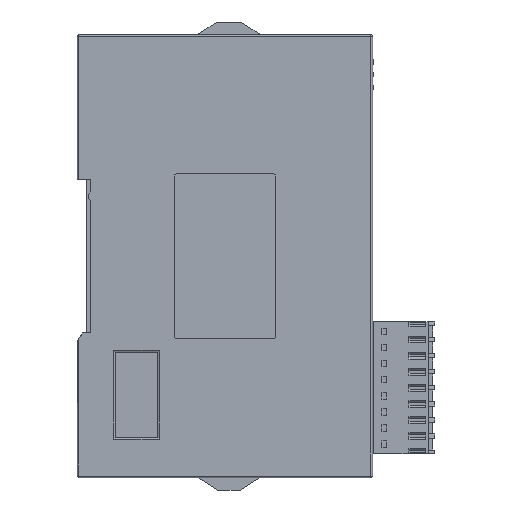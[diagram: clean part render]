
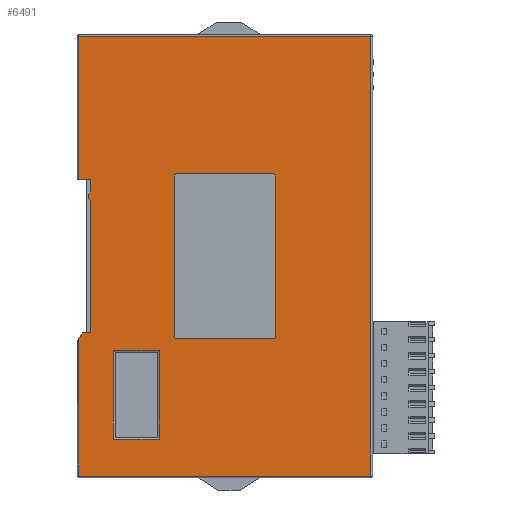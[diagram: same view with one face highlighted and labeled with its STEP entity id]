
A CAD part, left-side view. The second image highlights one B-rep face of the part: STEP entity #6491.
In plain terms, the highlighted planar face has unit normal (-1, 0, 0).
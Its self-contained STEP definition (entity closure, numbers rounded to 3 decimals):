
#6491=ADVANCED_FACE('',(#18840,#18842,#18844),#18846,.T.);
#18840=FACE_BOUND('',#18841,.T.);
#18841=EDGE_LOOP('',(#27708,#27709,#27710,#27711,#27712,#27713,#27714,#27715,#27716,
#27717,#27718));
#18842=FACE_BOUND('',#18843,.T.);
#18843=EDGE_LOOP('',(#27719,#27720,#27721,#27722,#27723,#27724,#27725,#27726));
#18844=FACE_BOUND('',#18845,.T.);
#18845=EDGE_LOOP('',(#27727,#27728,#27729,#27730));
#18846=PLANE('',#18847);
#18847=AXIS2_PLACEMENT_3D('',#18848,#18849,#18850);
#18848=CARTESIAN_POINT('',(-345.903,-44.348,173.566));
#18849=DIRECTION('',(-1.,0.,0.));
#18850=DIRECTION('',(0.,0.,1.));
#27708=ORIENTED_EDGE('',*,*,#33904,.F.);
#27709=ORIENTED_EDGE('',*,*,#33905,.F.);
#27710=ORIENTED_EDGE('',*,*,#33906,.T.);
#27711=ORIENTED_EDGE('',*,*,#33907,.T.);
#27712=ORIENTED_EDGE('',*,*,#33908,.T.);
#27713=ORIENTED_EDGE('',*,*,#33909,.T.);
#27714=ORIENTED_EDGE('',*,*,#33910,.T.);
#27715=ORIENTED_EDGE('',*,*,#33911,.F.);
#27716=ORIENTED_EDGE('',*,*,#33912,.F.);
#27717=ORIENTED_EDGE('',*,*,#33913,.F.);
#27718=ORIENTED_EDGE('',*,*,#33233,.F.);
#27719=ORIENTED_EDGE('',*,*,#33914,.F.);
#27720=ORIENTED_EDGE('',*,*,#33915,.F.);
#27721=ORIENTED_EDGE('',*,*,#33916,.F.);
#27722=ORIENTED_EDGE('',*,*,#33917,.F.);
#27723=ORIENTED_EDGE('',*,*,#33918,.F.);
#27724=ORIENTED_EDGE('',*,*,#33919,.F.);
#27725=ORIENTED_EDGE('',*,*,#33920,.F.);
#27726=ORIENTED_EDGE('',*,*,#33921,.F.);
#27727=ORIENTED_EDGE('',*,*,#33922,.F.);
#27728=ORIENTED_EDGE('',*,*,#33923,.F.);
#27729=ORIENTED_EDGE('',*,*,#33924,.F.);
#27730=ORIENTED_EDGE('',*,*,#33925,.F.);
#33233=EDGE_CURVE('',#39106,#39104,#39108,.T.);
#33904=EDGE_CURVE('',#40183,#39106,#40184,.T.);
#33905=EDGE_CURVE('',#40185,#40183,#40186,.T.);
#33906=EDGE_CURVE('',#40185,#40187,#40188,.T.);
#33907=EDGE_CURVE('',#40187,#40189,#40190,.T.);
#33908=EDGE_CURVE('',#40189,#40191,#40192,.T.);
#33909=EDGE_CURVE('',#40191,#40193,#40194,.T.);
#33910=EDGE_CURVE('',#40193,#40195,#40196,.T.);
#33911=EDGE_CURVE('',#40197,#40195,#40198,.T.);
#33912=EDGE_CURVE('',#40199,#40197,#40200,.T.);
#33913=EDGE_CURVE('',#39104,#40199,#40201,.T.);
#33914=EDGE_CURVE('',#40202,#40203,#40204,.T.);
#33915=EDGE_CURVE('',#40205,#40202,#40206,.T.);
#33916=EDGE_CURVE('',#40207,#40205,#40208,.T.);
#33917=EDGE_CURVE('',#40209,#40207,#40210,.T.);
#33918=EDGE_CURVE('',#40211,#40209,#40212,.T.);
#33919=EDGE_CURVE('',#40213,#40211,#40214,.T.);
#33920=EDGE_CURVE('',#40215,#40213,#40216,.T.);
#33921=EDGE_CURVE('',#40203,#40215,#40217,.T.);
#33922=EDGE_CURVE('',#40218,#40219,#40220,.T.);
#33923=EDGE_CURVE('',#40221,#40218,#40222,.T.);
#33924=EDGE_CURVE('',#40223,#40221,#40224,.T.);
#33925=EDGE_CURVE('',#40219,#40223,#40225,.T.);
#39104=VERTEX_POINT('',#51496);
#39106=VERTEX_POINT('',#51501);
#39108=LINE('',#51506,#51507);
#40183=VERTEX_POINT('',#55906);
#40184=LINE('',#55907,#55908);
#40185=VERTEX_POINT('',#55910);
#40186=LINE('',#55911,#55912);
#40187=VERTEX_POINT('',#55914);
#40188=LINE('',#55915,#55916);
#40189=VERTEX_POINT('',#55918);
#40190=LINE('',#55919,#55920);
#40191=VERTEX_POINT('',#55922);
#40192=CIRCLE('',#55923,2.);
#40193=VERTEX_POINT('',#55927);
#40194=LINE('',#55928,#55929);
#40195=VERTEX_POINT('',#55931);
#40196=LINE('',#55932,#55933);
#40197=VERTEX_POINT('',#55935);
#40198=LINE('',#55936,#55937);
#40199=VERTEX_POINT('',#55939);
#40200=LINE('',#55940,#55941);
#40201=LINE('',#55943,#55944);
#40202=VERTEX_POINT('',#55946);
#40203=VERTEX_POINT('',#55947);
#40204=LINE('',#55948,#55949);
#40205=VERTEX_POINT('',#55951);
#40206=CIRCLE('',#55952,0.5);
#40207=VERTEX_POINT('',#55956);
#40208=LINE('',#55957,#55958);
#40209=VERTEX_POINT('',#55960);
#40210=CIRCLE('',#55961,0.5);
#40211=VERTEX_POINT('',#55965);
#40212=LINE('',#55966,#55967);
#40213=VERTEX_POINT('',#55969);
#40214=CIRCLE('',#55970,0.5);
#40215=VERTEX_POINT('',#55974);
#40216=LINE('',#55975,#55976);
#40217=CIRCLE('',#55978,0.5);
#40218=VERTEX_POINT('',#55982);
#40219=VERTEX_POINT('',#55983);
#40220=LINE('',#55984,#55985);
#40221=VERTEX_POINT('',#55987);
#40222=LINE('',#55988,#55989);
#40223=VERTEX_POINT('',#55991);
#40224=LINE('',#55992,#55993);
#40225=LINE('',#55995,#55996);
#51496=CARTESIAN_POINT('',(-345.903,-120.48,183.998));
#51501=CARTESIAN_POINT('',(-345.903,-120.48,288.198));
#51506=CARTESIAN_POINT('',(-345.903,-120.48,288.198));
#51507=VECTOR('',#51508,1.);
#51508=DIRECTION('',(0.,0.,-1.));
#55906=CARTESIAN_POINT('',(-345.903,-51.28,288.198));
#55907=CARTESIAN_POINT('',(-345.903,-51.28,288.198));
#55908=VECTOR('',#55909,1.);
#55909=DIRECTION('',(0.,-1.,0.));
#55910=CARTESIAN_POINT('',(-345.903,-51.28,254.298));
#55911=CARTESIAN_POINT('',(-345.903,-51.28,254.298));
#55912=VECTOR('',#55913,1.);
#55913=DIRECTION('',(0.,0.,1.));
#55914=CARTESIAN_POINT('',(-345.903,-54.08,254.298));
#55915=CARTESIAN_POINT('',(-345.903,-51.28,254.298));
#55916=VECTOR('',#55917,1.);
#55917=DIRECTION('',(0.,-1.,0.));
#55918=CARTESIAN_POINT('',(-345.903,-54.08,251.62));
#55919=CARTESIAN_POINT('',(-345.903,-54.08,254.298));
#55920=VECTOR('',#55921,1.);
#55921=DIRECTION('',(0.,0.,-1.));
#55922=CARTESIAN_POINT('',(-345.903,-54.08,248.975));
#55923=AXIS2_PLACEMENT_3D('',#55924,#55925,#55926);
#55924=CARTESIAN_POINT('',(-345.903,-55.58,250.298));
#55925=DIRECTION('',(-1.,0.,0.));
#55926=DIRECTION('',(0.,0.75,0.661));
#55927=CARTESIAN_POINT('',(-345.903,-54.08,217.898));
#55928=CARTESIAN_POINT('',(-345.903,-54.08,248.975));
#55929=VECTOR('',#55930,1.);
#55930=DIRECTION('',(0.,0.,-1.));
#55931=CARTESIAN_POINT('',(-345.903,-52.08,217.898));
#55932=CARTESIAN_POINT('',(-345.903,-54.08,217.898));
#55933=VECTOR('',#55934,1.);
#55934=DIRECTION('',(0.,1.,0.));
#55935=CARTESIAN_POINT('',(-345.903,-51.28,216.564));
#55936=CARTESIAN_POINT('',(-345.903,-51.28,216.564));
#55937=VECTOR('',#55938,1.);
#55938=DIRECTION('',(0.,-0.515,0.857));
#55939=CARTESIAN_POINT('',(-345.903,-51.28,183.998));
#55940=CARTESIAN_POINT('',(-345.903,-51.28,183.998));
#55941=VECTOR('',#55942,1.);
#55942=DIRECTION('',(0.,0.,1.));
#55943=CARTESIAN_POINT('',(-345.903,-120.48,183.998));
#55944=VECTOR('',#55945,1.);
#55945=DIRECTION('',(0.,1.,0.));
#55946=CARTESIAN_POINT('',(-345.903,-97.38,255.598));
#55947=CARTESIAN_POINT('',(-345.903,-74.38,255.598));
#55948=CARTESIAN_POINT('',(-345.903,-97.38,255.598));
#55949=VECTOR('',#55950,1.);
#55950=DIRECTION('',(0.,1.,0.));
#55951=CARTESIAN_POINT('',(-345.903,-97.88,255.098));
#55952=AXIS2_PLACEMENT_3D('',#55953,#55954,#55955);
#55953=CARTESIAN_POINT('',(-345.903,-97.38,255.098));
#55954=DIRECTION('',(-1.,0.,0.));
#55955=DIRECTION('',(0.,-1.,0.));
#55956=CARTESIAN_POINT('',(-345.903,-97.88,217.098));
#55957=CARTESIAN_POINT('',(-345.903,-97.88,217.098));
#55958=VECTOR('',#55959,1.);
#55959=DIRECTION('',(0.,0.,1.));
#55960=CARTESIAN_POINT('',(-345.903,-97.38,216.598));
#55961=AXIS2_PLACEMENT_3D('',#55962,#55963,#55964);
#55962=CARTESIAN_POINT('',(-345.903,-97.38,217.098));
#55963=DIRECTION('',(-1.,0.,0.));
#55964=DIRECTION('',(0.,0.,-1.));
#55965=CARTESIAN_POINT('',(-345.903,-74.38,216.598));
#55966=CARTESIAN_POINT('',(-345.903,-74.38,216.598));
#55967=VECTOR('',#55968,1.);
#55968=DIRECTION('',(0.,-1.,0.));
#55969=CARTESIAN_POINT('',(-345.903,-73.88,217.098));
#55970=AXIS2_PLACEMENT_3D('',#55971,#55972,#55973);
#55971=CARTESIAN_POINT('',(-345.903,-74.38,217.098));
#55972=DIRECTION('',(-1.,0.,0.));
#55973=DIRECTION('',(0.,1.,0.));
#55974=CARTESIAN_POINT('',(-345.903,-73.88,255.098));
#55975=CARTESIAN_POINT('',(-345.903,-73.88,255.098));
#55976=VECTOR('',#55977,1.);
#55977=DIRECTION('',(0.,0.,-1.));
#55978=AXIS2_PLACEMENT_3D('',#55979,#55980,#55981);
#55979=CARTESIAN_POINT('',(-345.903,-74.38,255.098));
#55980=DIRECTION('',(-1.,0.,0.));
#55981=DIRECTION('',(0.,0.,1.));
#55982=CARTESIAN_POINT('',(-345.903,-70.34,192.748));
#55983=CARTESIAN_POINT('',(-345.903,-70.34,213.748));
#55984=CARTESIAN_POINT('',(-345.903,-70.34,192.748));
#55985=VECTOR('',#55986,1.);
#55986=DIRECTION('',(0.,0.,1.));
#55987=CARTESIAN_POINT('',(-345.903,-59.45,192.748));
#55988=CARTESIAN_POINT('',(-345.903,-59.45,192.748));
#55989=VECTOR('',#55990,1.);
#55990=DIRECTION('',(0.,-1.,0.));
#55991=CARTESIAN_POINT('',(-345.903,-59.45,213.748));
#55992=CARTESIAN_POINT('',(-345.903,-59.45,213.748));
#55993=VECTOR('',#55994,1.);
#55994=DIRECTION('',(0.,0.,-1.));
#55995=CARTESIAN_POINT('',(-345.903,-70.34,213.748));
#55996=VECTOR('',#55997,1.);
#55997=DIRECTION('',(0.,1.,0.));
